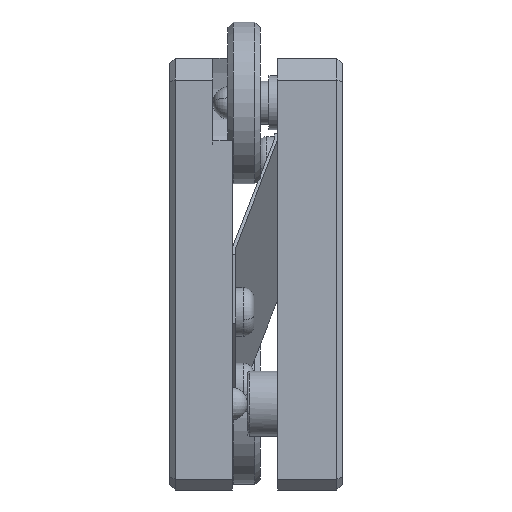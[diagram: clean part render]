
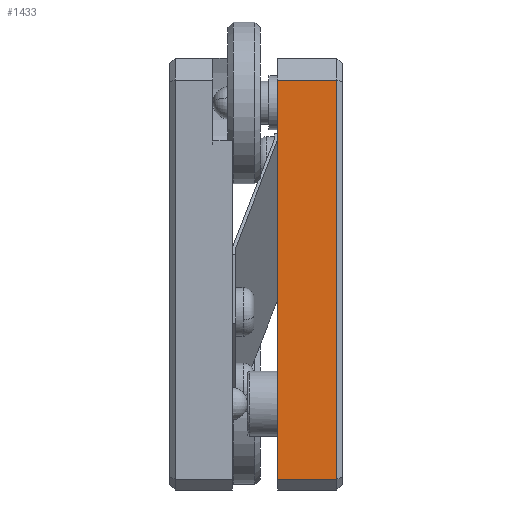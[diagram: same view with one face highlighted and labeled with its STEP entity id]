
A CAD part, left-side view. The second image highlights one B-rep face of the part: STEP entity #1433.
In plain terms, the highlighted planar face has unit normal (-1, 0, 0).
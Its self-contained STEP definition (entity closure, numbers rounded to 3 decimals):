
#224 = VECTOR ( 'NONE', #2555, 1000. ) ;
#316 = DIRECTION ( 'NONE',  ( 0., -1., 0. ) ) ;
#419 = VECTOR ( 'NONE', #316, 1000. ) ;
#662 = VECTOR ( 'NONE', #5449, 1000. ) ;
#913 = CARTESIAN_POINT ( 'NONE',  ( -20., 0.5, -19. ) ) ;
#1004 = AXIS2_PLACEMENT_3D ( 'NONE', #3205, #3598, #1144 ) ;
#1144 = DIRECTION ( 'NONE',  ( 0., 0., -1. ) ) ;
#1183 = EDGE_CURVE ( 'NONE', #4932, #1501, #4648, .T. ) ;
#1249 = CARTESIAN_POINT ( 'NONE',  ( -20., 6., -19. ) ) ;
#1289 = ORIENTED_EDGE ( 'NONE', *, *, #4757, .F. ) ;
#1395 = CARTESIAN_POINT ( 'NONE',  ( -20., 6., 18. ) ) ;
#1433 = ADVANCED_FACE ( 'NONE', ( #5217 ), #1548, .F. ) ;
#1501 = VERTEX_POINT ( 'NONE', #3152 ) ;
#1548 = PLANE ( 'NONE',  #1004 ) ;
#1602 = VERTEX_POINT ( 'NONE', #2477 ) ;
#1836 = VECTOR ( 'NONE', #3059, 1000. ) ;
#2477 = CARTESIAN_POINT ( 'NONE',  ( -20., 0.5, 18. ) ) ;
#2555 = DIRECTION ( 'NONE',  ( 0., 0., 1. ) ) ;
#2730 = LINE ( 'NONE', #1395, #1836 ) ;
#2789 = LINE ( 'NONE', #4082, #419 ) ;
#3059 = DIRECTION ( 'NONE',  ( 0., -1., 0. ) ) ;
#3152 = CARTESIAN_POINT ( 'NONE',  ( -20., 6., 18. ) ) ;
#3165 = EDGE_LOOP ( 'NONE', ( #4831, #3897, #1289, #3990 ) ) ;
#3205 = CARTESIAN_POINT ( 'NONE',  ( -20., 6., -19. ) ) ;
#3372 = LINE ( 'NONE', #4230, #224 ) ;
#3428 = EDGE_CURVE ( 'NONE', #4932, #4122, #2789, .T. ) ;
#3598 = DIRECTION ( 'NONE',  ( 1., 0., 0. ) ) ;
#3897 = ORIENTED_EDGE ( 'NONE', *, *, #4435, .T. ) ;
#3990 = ORIENTED_EDGE ( 'NONE', *, *, #1183, .F. ) ;
#4082 = CARTESIAN_POINT ( 'NONE',  ( -20., 6., -19. ) ) ;
#4122 = VERTEX_POINT ( 'NONE', #913 ) ;
#4230 = CARTESIAN_POINT ( 'NONE',  ( -20., 0.5, -19. ) ) ;
#4269 = CARTESIAN_POINT ( 'NONE',  ( -20., 6., -19. ) ) ;
#4435 = EDGE_CURVE ( 'NONE', #4122, #1602, #3372, .T. ) ;
#4648 = LINE ( 'NONE', #1249, #662 ) ;
#4757 = EDGE_CURVE ( 'NONE', #1501, #1602, #2730, .T. ) ;
#4831 = ORIENTED_EDGE ( 'NONE', *, *, #3428, .T. ) ;
#4932 = VERTEX_POINT ( 'NONE', #4269 ) ;
#5217 = FACE_OUTER_BOUND ( 'NONE', #3165, .T. ) ;
#5449 = DIRECTION ( 'NONE',  ( 0., 0., 1. ) ) ;
